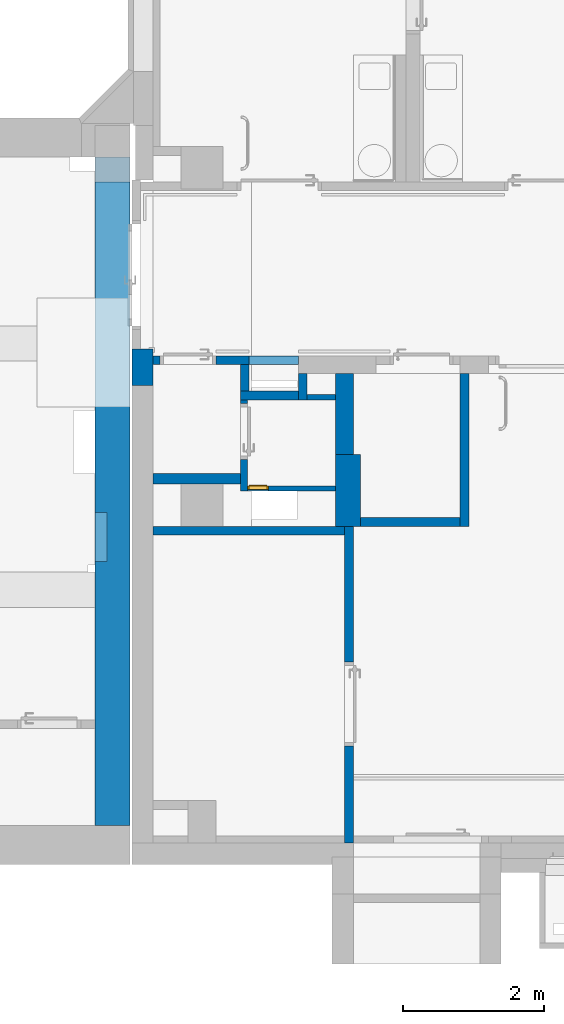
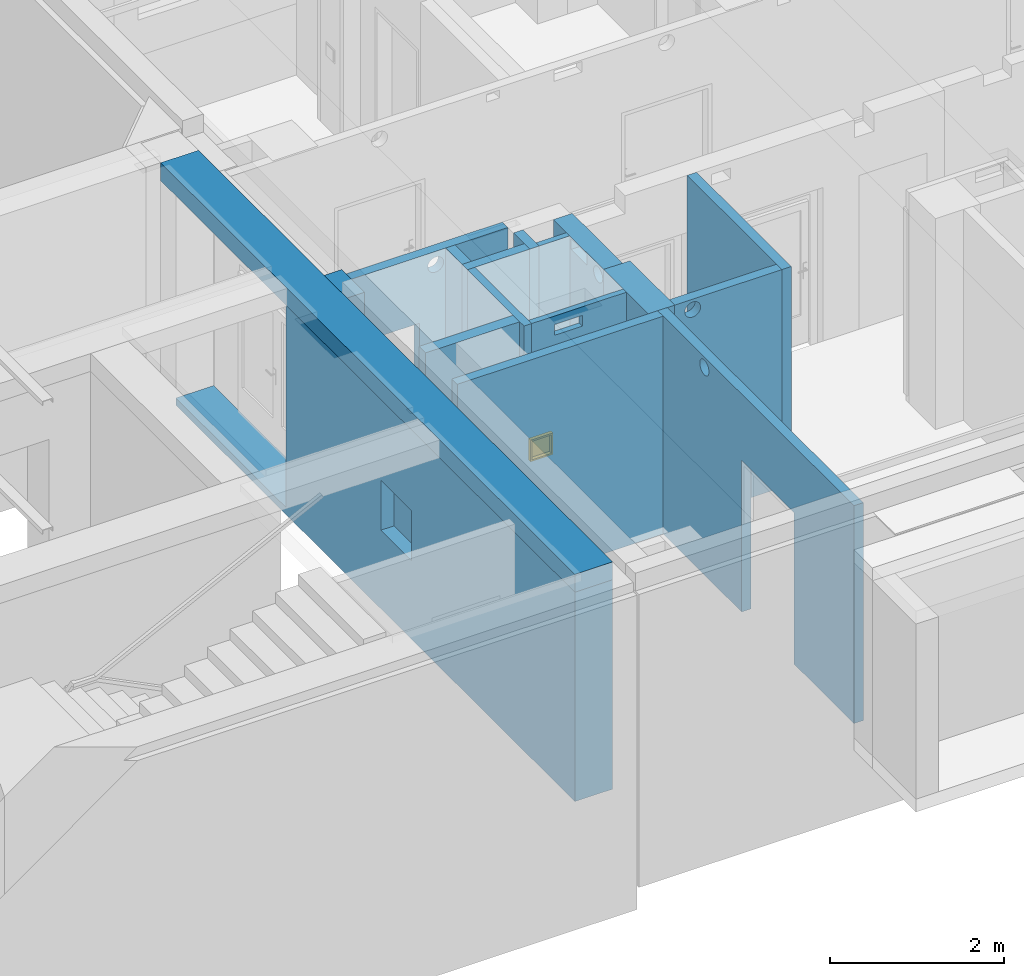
# One storey, part 10 of 84: 17 walls, 1 window, 13 openings.
"""IFC4 building model written with IfcOpenShell, lengths in metres."""

from ifc_helpers import new_model, entity, si_unit, converted_unit, derived_unit, frame, frame_2d, origin, origin_with_axes, place, context, subcontext, project, spatial, polyline, rectangle, outline, extrude, faceted_brep, source, transform, mapped, material, layer, layer_set, layer_usage, element, fill, save


model = new_model("IFC4")

# Units and contexts
model_context = context("Model", 3, precision=1e-05, world=origin())
body_context = subcontext(model_context, "Body", "Model", "MODEL_VIEW")
ifc_project = project(units=[si_unit("LENGTHUNIT", "METRE"), si_unit("AREAUNIT", "SQUARE_METRE"), si_unit("VOLUMEUNIT", "CUBIC_METRE"), si_unit("MASSUNIT", "GRAM", prefix="KILO"), converted_unit("PLANEANGLEUNIT", "DEGREE", entity("IfcPlaneAngleMeasure", 0.0174532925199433), si_unit("PLANEANGLEUNIT", "RADIAN"), dimensions=[0, 0, 0, 0, 0, 0, 0]), derived_unit("THERMALTRANSMITTANCEUNIT", [(si_unit("POWERUNIT", "WATT"), 1), (si_unit("THERMODYNAMICTEMPERATUREUNIT", "KELVIN"), -1), (si_unit("LENGTHUNIT", "METRE"), -2)]), derived_unit("VOLUMETRICFLOWRATEUNIT", [(si_unit("LENGTHUNIT", "METRE"), 3), (converted_unit("TIMEUNIT", "hour", entity("IfcTimeMeasure", 3600.0), si_unit("TIMEUNIT", "SECOND"), dimensions=[0, 0, 1, 0, 0, 0, 0]), -1), (si_unit("LENGTHUNIT", "METRE"), -1)])], contexts=[model_context])

# Site, building, storey
site_placement = place(None, origin())
site = spatial("IfcSite", under=ifc_project, at=site_placement, Name="3. ASŘ", CompositionType="ELEMENT")
building_placement = place(site_placement, origin())
building = spatial("IfcBuilding", under=site, at=building_placement, Name="Pavilon C", CompositionType="ELEMENT")
storey_placement = place(building_placement, frame((0.0, 0.0, -3.3)))
storey = spatial("IfcBuildingStorey", under=building, at=storey_placement, Name="Půdorys 1.PP", CompositionType="ELEMENT", Elevation=-3.3)

# Wall, openings
ifc_material_1 = material(Name="ZDIVO Z CDm")
ifc_layer_1 = layer(ifc_material_1, 0.5)
ifc_layer_set_1 = layer_set([ifc_layer_1])
ifc_layer_usage_1 = layer_usage(ifc_layer_set_1, "AXIS2", "POSITIVE", 0.0)
wall_1_placement = place(storey_placement, frame((-1.025, 0.850000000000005, -0.1), z_axis=(0.0, 0.0, 1.0), x_axis=(7.95186624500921e-16, 1.0, 0.0)))
wall_1 = element("IfcWall", 1, at=wall_1_placement, inside=storey, material=ifc_layer_usage_1, Name="ZDIVO Z CDm", context=body_context, shape_type="SweptSolid", body=[
    extrude(rectangle(XDim=9.15, YDim=0.5, at=frame_2d((4.575, 0.25), x_axis=(1.0, 0.0))), origin_with_axes(), (0.0, 0.0, 1.0), 2.93),
])
opening_1_placement = place(wall_1_placement, frame((9.15, 0.5, 0.1), z_axis=(0.0, -1.0, 0.0), x_axis=(0.0, 0.0, 1.0)))
element("IfcOpeningElement", 2, at=opening_1_placement, cuts=wall_1, Name="Dveřní otvor", ObjectType="Opening", context=body_context, shape_type="SweptSolid", body=[
    extrude(outline(polyline([(0.0, 2.525), (2.95, 2.525), (2.95, 0.0), (0.0, 0.0), (0.0, 2.525)])), origin_with_axes(), (0.0, 0.0, 1.0), 0.5),
])
opening_2_placement = place(wall_1_placement, frame((4.45, 0.499999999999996, 1.1), z_axis=(0.0, -1.0, 0.0), x_axis=(0.0, 0.0, 1.0)))
element("IfcOpeningElement", 3, at=opening_2_placement, cuts=wall_1, Name="Stěnová nika", ObjectType="Opening", context=body_context, shape_type="SweptSolid", body=[
    extrude(outline(polyline([(0.0, 0.7), (0.7, 0.7), (0.7, 0.0), (0.0, 0.0), (0.0, 0.7)])), origin_with_axes(), (0.0, 0.0, 1.0), 0.175),
])

# Walls
ifc_material_2 = material(Name="ZDIVO Z CDm")
ifc_layer_2 = layer(ifc_material_2, 0.125)
ifc_layer_set_2 = layer_set([ifc_layer_2])
ifc_layer_usage_2 = layer_usage(ifc_layer_set_2, "AXIS2", "POSITIVE", 0.0)
wall_2_placement = place(storey_placement, frame((2.025, 5.1, -0.1), z_axis=(0.0, 0.0, 1.0), x_axis=(-1.0, 0.0, 0.0)))
element("IfcWall", 4, at=wall_2_placement, inside=storey, material=ifc_layer_usage_2, Name="ZDIVO Z CDm", context=body_context, shape_type="SweptSolid", body=[
    extrude(rectangle(XDim=2.725, YDim=0.125, at=frame_2d((1.3625, 0.0625), x_axis=(1.0, 0.0))), origin_with_axes(), (0.0, 0.0, 1.0), 3.05),
])
ifc_material_3 = material(Name="ZDIVO Z CDm")
ifc_layer_3 = layer(ifc_material_3, 0.125)
ifc_layer_set_3 = layer_set([ifc_layer_3])
ifc_layer_usage_3 = layer_usage(ifc_layer_set_3, "AXIS2", "POSITIVE", 0.0)
wall_3_placement = place(storey_placement, frame((1.37, 7.025, -0.1), z_axis=(0.0, 0.0, 1.0), x_axis=(-1.0, 0.0, 0.0)))
element("IfcWall", 5, at=wall_3_placement, inside=storey, material=ifc_layer_usage_3, Name="ZDIVO Z CDm", context=body_context, shape_type="SweptSolid", body=[
    extrude(rectangle(XDim=0.825, YDim=0.125, at=frame_2d((0.4125, 0.0625), x_axis=(1.0, 0.0))), origin_with_axes(), (0.0, 0.0, 1.0), 3.05),
])
ifc_material_4 = material(Name="ZDIVO Z CDm")
ifc_layer_4 = layer(ifc_material_4, 0.125)
ifc_layer_set_4 = layer_set([ifc_layer_4])
ifc_layer_usage_4 = layer_usage(ifc_layer_set_4, "AXIS2", "POSITIVE", 0.0)
wall_4_placement = place(storey_placement, frame((0.670000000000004, 7.025, -0.1), z_axis=(0.0, 0.0, 1.0), x_axis=(0.0, 1.0, 0.0)))
element("IfcWall", 6, at=wall_4_placement, inside=storey, material=ifc_layer_usage_4, Name="ZDIVO Z CDm", context=body_context, shape_type="SweptSolid", body=[
    extrude(rectangle(XDim=0.375, YDim=0.125, at=frame_2d((0.1875, 0.0625), x_axis=(1.0, 0.0))), origin_with_axes(), (0.0, 0.0, 1.0), 3.05),
])
ifc_material_5 = material(Name="ZDIVO Z CDm")
ifc_layer_5 = layer(ifc_material_5, 0.3)
ifc_layer_set_5 = layer_set([ifc_layer_5])
ifc_layer_usage_5 = layer_usage(ifc_layer_set_5, "AXIS2", "POSITIVE", 0.0)
wall_5_placement = place(storey_placement, frame((-0.999999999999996, 7.625, -0.1), z_axis=(0.0, 0.0, 1.0), x_axis=(0.0, -1.0, 0.0)))
element("IfcWall", 7, at=wall_5_placement, inside=storey, material=ifc_layer_usage_5, Name="ZDIVO Z CDm", context=body_context, shape_type="SweptSolid", body=[
    extrude(rectangle(XDim=0.525, YDim=0.3, at=frame_2d((0.2625, 0.15), x_axis=(1.0, 0.0))), origin_with_axes(), (0.0, 0.0, 1.0), 3.05),
])
ifc_material_6 = material(Name="ZDIVO Z CDm")
ifc_layer_6 = layer(ifc_material_6, 0.125)
ifc_layer_set_6 = layer_set([ifc_layer_6])
ifc_layer_usage_6 = layer_usage(ifc_layer_set_6, "AXIS2", "POSITIVE", 0.0)
wall_6_placement = place(storey_placement, frame((1.37, 7.275, -0.1), z_axis=(0.0, 0.0, 1.0), x_axis=(0.0, -1.0, 0.0)))
element("IfcWall", 8, at=wall_6_placement, inside=storey, material=ifc_layer_usage_6, Name="ZDIVO Z CDm", context=body_context, shape_type="SweptSolid", body=[
    extrude(rectangle(XDim=0.374999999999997, YDim=0.125, at=frame_2d((0.187499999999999, 0.0625), x_axis=(1.0, 0.0))), origin_with_axes(), (0.0, 0.0, 1.0), 3.05),
])

# Wall, openings
ifc_material_7 = material(Name="ZDIVO Z CDm")
ifc_layer_7 = layer(ifc_material_7, 0.125)
ifc_layer_set_7 = layer_set([ifc_layer_7])
ifc_layer_usage_7 = layer_usage(ifc_layer_set_7, "AXIS2", "POSITIVE", 0.0)
wall_7_placement = place(storey_placement, frame((1.37, 7.525, -0.1), z_axis=(0.0, 0.0, 1.0), x_axis=(-1.0, 0.0, 0.0)))
wall_7 = element("IfcWall", 9, at=wall_7_placement, inside=storey, material=ifc_layer_usage_7, Name="ZDIVO Z CDm", context=body_context, shape_type="SweptSolid", body=[
    extrude(rectangle(XDim=2.07, YDim=0.125, at=frame_2d((1.035, 0.0625), x_axis=(1.0, 0.0))), origin_with_axes(), (0.0, 0.0, 1.0), 3.05),
])
opening_3_placement = place(wall_7_placement, frame((0.85074963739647, 0.0, 2.76), z_axis=(0.0, 1.0, 0.0), x_axis=(0.0, 0.0, 1.0)))
element("IfcOpeningElement", 10, at=opening_3_placement, cuts=wall_7, Name="VZT", ObjectType="Opening", context=body_context, shape_type="SweptSolid", body=[
    extrude(outline(polyline([(0.104999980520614, 0.21), (0.115975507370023, 0.20942479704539), (0.126830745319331, 0.207705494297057), (0.137446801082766, 0.204860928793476), (0.147707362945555, 0.200922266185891), (0.157500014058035, 0.195932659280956), (0.166717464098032, 0.189946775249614), (0.175258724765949, 0.1830301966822), (0.183030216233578, 0.175258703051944), (0.189946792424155, 0.166717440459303), (0.195932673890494, 0.157499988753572), (0.200922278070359, 0.1477073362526), (0.204860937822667, 0.137446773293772), (0.207705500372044, 0.126830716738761), (0.209424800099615, 0.115975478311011), (0.209999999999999, 0.104999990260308), (0.209424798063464, 0.0940245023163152), (0.207705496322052, 0.0831692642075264), (0.204860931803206, 0.0725532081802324), (0.20092227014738, 0.0622926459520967), (0.195932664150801, 0.0524999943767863), (0.18994678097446, 0.0432825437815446), (0.183030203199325, 0.0347412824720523), (0.175258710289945, 0.0269697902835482), (0.166717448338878, 0.0200532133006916), (0.157499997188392, 0.014067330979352), (0.147707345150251, 0.00907772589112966), (0.137446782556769, 0.00513906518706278), (0.126830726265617, 0.00229450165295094), (0.115975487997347, 0.000575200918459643), (0.105, 0.0), (0.0940245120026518, 0.000575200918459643), (0.0831692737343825, 0.00229450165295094), (0.0725532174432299, 0.00513906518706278), (0.0622926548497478, 0.00907772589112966), (0.0525000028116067, 0.014067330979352), (0.0432825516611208, 0.0200532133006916), (0.0347412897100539, 0.0269697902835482), (0.0269697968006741, 0.0347412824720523), (0.0200532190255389, 0.0432825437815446), (0.014067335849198, 0.0524999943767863), (0.00907772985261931, 0.0622926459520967), (0.00513906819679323, 0.0725532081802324), (0.00229450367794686, 0.0831692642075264), (0.000575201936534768, 0.0940245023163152), (0.0, 0.104999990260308), (0.000575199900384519, 0.115975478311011), (0.00229449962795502, 0.126830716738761), (0.00513906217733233, 0.137446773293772), (0.00907772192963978, 0.1477073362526), (0.0140673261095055, 0.157499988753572), (0.0200532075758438, 0.166717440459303), (0.0269697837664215, 0.175258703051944), (0.0347412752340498, 0.1830301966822), (0.0432825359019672, 0.189946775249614), (0.0524999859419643, 0.195932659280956), (0.0622926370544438, 0.200922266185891), (0.0725531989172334, 0.204860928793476), (0.0831692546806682, 0.207705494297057), (0.0940244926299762, 0.20942479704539), (0.104999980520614, 0.21)])), origin_with_axes(), (0.0, 0.0, 1.0), 0.125),
])
opening_4_placement = place(wall_7_placement, frame((1.97, 0.125, 0.0), z_axis=(0.0, -1.0, 0.0), x_axis=(0.0, 0.0, 1.0)))
element("IfcOpeningElement", 11, at=opening_4_placement, cuts=wall_7, Name="Dveřní otvor", ObjectType="Opening", context=body_context, shape_type="SweptSolid", body=[
    extrude(outline(polyline([(0.0, 0.8), (2.12, 0.8), (2.12, 0.0), (0.0, 0.0), (0.0, 0.8)])), origin_with_axes(), (0.0, 0.0, 1.0), 0.125),
])
opening_5_placement = place(wall_7_placement, frame((0.0, 0.0, 0.1), z_axis=(0.0, 1.0, 0.0), x_axis=(0.0, 0.0, 1.0)))
element("IfcOpeningElement", 12, at=opening_5_placement, cuts=wall_7, Name="Dveřní otvor", ObjectType="Opening", context=body_context, shape_type="SweptSolid", body=[
    extrude(outline(polyline([(0.0, 0.7), (2.2, 0.7), (2.2, 0.0), (0.0, 0.0), (0.0, 0.7)])), origin_with_axes(), (0.0, 0.0, 1.0), 0.125),
])

ifc_material_8 = material(Name="ZDIVO Z CDm")
ifc_layer_8 = layer(ifc_material_8, 0.125)
ifc_layer_set_8 = layer_set([ifc_layer_8])
ifc_layer_usage_8 = layer_usage(ifc_layer_set_8, "AXIS2", "POSITIVE", 0.0)
wall_8_placement = place(storey_placement, frame((2.025, 5.1, -0.1), z_axis=(0.0, 0.0, 1.0), x_axis=(-5.05274834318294e-17, -1.0, 0.0)))
wall_8 = element("IfcWall", 13, at=wall_8_placement, inside=storey, material=ifc_layer_usage_8, Name="ZDIVO Z CDm", context=body_context, shape_type="SweptSolid", body=[
    extrude(rectangle(XDim=4.5, YDim=0.125, at=frame_2d((2.25, 0.0625), x_axis=(1.0, 0.0))), origin_with_axes(), (0.0, 0.0, 1.0), 3.05),
])
opening_6_placement = place(wall_8_placement, frame((0.965358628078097, 4.87771420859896e-17, 2.8), z_axis=(0.0, 1.0, 0.0), x_axis=(0.0, 0.0, 1.0)))
element("IfcOpeningElement", 14, at=opening_6_placement, cuts=wall_8, Name="VZT", ObjectType="Opening", context=body_context, shape_type="SweptSolid", body=[
    extrude(outline(polyline([(0.104999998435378, 0.0), (0.0940245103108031, 0.00057520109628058), (0.0831692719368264, 0.00229450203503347), (0.0725532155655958, 0.0051390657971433), (0.062292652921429, 0.00907772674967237), (0.0525000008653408, 0.014067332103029), (0.0432825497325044, 0.0200532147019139), (0.0347412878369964, 0.0269697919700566), (0.0269697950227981, 0.0347412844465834), (0.0200532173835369, 0.0432825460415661), (0.0140673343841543, 0.0524999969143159), (0.0090777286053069, 0.062292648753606), (0.00513906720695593, 0.0725532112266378), (0.00229450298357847, 0.0831692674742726), (0.000575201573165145, 0.0940245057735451), (0.0, 0.104999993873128), (0.00057520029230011, 0.115975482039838), (0.00229450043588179, 0.126830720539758), (0.00513906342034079, 0.137446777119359), (0.00907772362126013, 0.147707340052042), (0.0140673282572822, 0.15749999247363), (0.0200532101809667, 0.166717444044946), (0.0269697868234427, 0.17525870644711), (0.0347412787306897, 0.183030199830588), (0.043282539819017, 0.189946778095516), (0.0524999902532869, 0.195932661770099), (0.0622926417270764, 0.200922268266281), (0.0725532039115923, 0.204860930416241), (0.0831692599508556, 0.20770549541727), (0.0940244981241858, 0.209424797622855), (0.104999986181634, 0.21), (0.115975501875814, 0.209424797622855), (0.126830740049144, 0.20770549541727), (0.137446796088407, 0.204860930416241), (0.147707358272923, 0.200922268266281), (0.157500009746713, 0.195932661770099), (0.166717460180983, 0.189946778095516), (0.17525872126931, 0.183030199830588), (0.183030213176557, 0.17525870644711), (0.189946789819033, 0.166717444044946), (0.195932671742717, 0.15749999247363), (0.200922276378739, 0.147707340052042), (0.204860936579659, 0.137446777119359), (0.207705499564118, 0.126830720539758), (0.2094247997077, 0.115975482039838), (0.21, 0.104999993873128), (0.209424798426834, 0.0940245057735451), (0.207705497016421, 0.0831692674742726), (0.204860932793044, 0.0725532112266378), (0.200922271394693, 0.062292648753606), (0.195932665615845, 0.0524999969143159), (0.189946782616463, 0.0432825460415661), (0.183030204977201, 0.0347412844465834), (0.175258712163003, 0.0269697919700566), (0.166717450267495, 0.0200532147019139), (0.157499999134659, 0.014067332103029), (0.147707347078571, 0.00907772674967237), (0.137446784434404, 0.0051390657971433), (0.126830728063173, 0.00229450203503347), (0.115975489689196, 0.00057520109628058), (0.104999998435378, 0.0)])), origin_with_axes(), (0.0, 0.0, 1.0), 0.125),
])
opening_7_placement = place(wall_8_placement, frame((1.925, -1.30108269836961e-16, 0.0), z_axis=(0.0, 1.0, 0.0), x_axis=(0.0, 0.0, 1.0)))
element("IfcOpeningElement", 15, at=opening_7_placement, cuts=wall_8, Name="Dveřní otvor", ObjectType="Opening", context=body_context, shape_type="SweptSolid", body=[
    extrude(outline(polyline([(0.0, 1.2), (2.12, 1.2), (2.12, 0.0), (0.0, 0.0), (0.0, 1.2)])), origin_with_axes(), (0.0, 0.0, 1.0), 0.125),
])

# Wall
ifc_material_9 = material(Name="ZELEZOBETONOVÁ KCE")
ifc_layer_9 = layer(ifc_material_9, 0.5)
ifc_layer_set_9 = layer_set([ifc_layer_9])
ifc_layer_usage_9 = layer_usage(ifc_layer_set_9, "AXIS2", "POSITIVE", 0.0)
wall_9_placement = place(storey_placement, frame((-1.52499999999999, 10.35, 2.83), z_axis=(0.0, 0.0, 1.0), x_axis=(-7.65890275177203e-16, -1.0, 0.0)))
element("IfcWall", 16, at=wall_9_placement, inside=storey, material=ifc_layer_usage_9, context=body_context, shape_type="SweptSolid", body=[
    extrude(rectangle(XDim=9.5, YDim=0.5, at=frame_2d((4.75, 0.25), x_axis=(1.0, 0.0))), origin_with_axes(), (0.0, 0.0, 1.0), 0.25),
])

# Wall, opening
ifc_material_10 = material(Name="SDK - 1 KCE + DVOJITÉ OPLÁŠTĚNÍ")
ifc_layer_10 = layer(ifc_material_10, 0.1)
ifc_layer_set_10 = layer_set([ifc_layer_10])
ifc_layer_usage_10 = layer_usage(ifc_layer_set_10, "AXIS2", "POSITIVE", 0.0)
wall_10_placement = place(storey_placement, frame((0.545000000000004, 6.9, -0.1), z_axis=(0.0, 0.0, 1.0), x_axis=(0.0, -1.0, 0.0)))
wall_10 = element("IfcWall", 17, at=wall_10_placement, inside=storey, material=ifc_layer_usage_10, Name="SDK - 1 KCE + DVOJITÉ OPLÁŠTĚNÍ", context=body_context, shape_type="SweptSolid", body=[
    extrude(rectangle(XDim=1.3, YDim=0.1, at=frame_2d((0.65, 0.05), x_axis=(1.0, 0.0))), origin_with_axes(), (0.0, 0.0, 1.0), 3.05),
])
opening_8_placement = place(wall_10_placement, frame((0.05, 0.0, 0.0), z_axis=(0.0, 1.0, 0.0), x_axis=(0.0, 0.0, 1.0)))
element("IfcOpeningElement", 18, at=opening_8_placement, cuts=wall_10, Name="Dveřní otvor", ObjectType="Opening", context=body_context, shape_type="SweptSolid", body=[
    extrude(outline(polyline([(0.0, 0.8), (2.12, 0.8), (2.12, 0.0), (0.0, 0.0), (0.0, 0.8)])), origin_with_axes(), (0.0, 0.0, 1.0), 0.1),
])

# Wall
ifc_material_11 = material(Name="SDK - 2 KCE + DVOJITÉ OPLÁŠTĚNÍ")
ifc_layer_11 = layer(ifc_material_11, 0.35)
ifc_layer_set_11 = layer_set([ifc_layer_11])
ifc_layer_usage_11 = layer_usage(ifc_layer_set_11, "AXIS2", "POSITIVE", 0.0)
wall_11_placement = place(storey_placement, frame((1.9, 6.125, -0.1), z_axis=(0.0, 0.0, 1.0), x_axis=(4.43655952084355e-16, -1.0, 0.0)))
element("IfcWall", 19, at=wall_11_placement, inside=storey, material=ifc_layer_usage_11, Name="SDK - 2 KCE + DVOJITÉ OPLÁŠTĚNÍ", context=body_context, shape_type="SweptSolid", body=[
    extrude(rectangle(XDim=1.025, YDim=0.35, at=frame_2d((0.5125, 0.175), x_axis=(1.0, 0.0))), origin_with_axes(), (0.0, 0.0, 1.0), 3.05),
])

# Wall, openings, window
ifc_material_12 = material(Name="SDK ŠACHTOVÁ STĚNA/SDK OPL. S PO")
ifc_layer_12 = layer(ifc_material_12, 0.0750000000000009)
ifc_layer_set_12 = layer_set([ifc_layer_12])
ifc_layer_usage_12 = layer_usage(ifc_layer_set_12, "AXIS2", "POSITIVE", 0.0)
wall_12_placement = place(storey_placement, frame((0.645000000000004, 5.6, 0.0)))
wall_12 = element("IfcWall", 20, at=wall_12_placement, inside=storey, material=ifc_layer_usage_12, Name="SDK ŠACHTOVÁ STĚNA/SDK OPL. S PO", context=body_context, shape_type="SweptSolid", body=[
    extrude(rectangle(XDim=1.255, YDim=0.0750000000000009, at=frame_2d((0.6275, 0.0375000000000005), x_axis=(1.0, 0.0))), origin_with_axes(), (0.0, 0.0, 1.0), 2.95),
])
opening_9_placement = place(wall_12_placement, frame((0.3, 0.0750000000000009, 1.0), z_axis=(0.0, -1.0, 0.0), x_axis=(0.0, 0.0, 1.0)))
opening_9 = element("IfcOpeningElement", 21, at=opening_9_placement, cuts=wall_12, Name="Okenní otvor", ObjectType="Opening", context=body_context, shape_type="SweptSolid", body=[
    extrude(outline(polyline([(0.0, 0.3), (0.3, 0.3), (0.3, 0.0), (0.0, 0.0), (0.0, 0.3)])), origin_with_axes(), (0.0, 0.0, 1.0), 0.0750000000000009),
])
opening_10_placement = place(wall_12_placement, frame((0.3, 0.0, 2.68), z_axis=(0.0, 1.0, 0.0), x_axis=(0.0, 0.0, 1.0)))
element("IfcOpeningElement", 22, at=opening_10_placement, cuts=wall_12, Name="ZTI", ObjectType="Opening", context=body_context, shape_type="SweptSolid", body=[
    extrude(outline(polyline([(0.0, 0.37), (0.15, 0.37), (0.15, 0.0), (0.0, 0.0), (0.0, 0.37)])), origin_with_axes(), (0.0, 0.0, 1.0), 0.0750000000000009),
])
shared_shape = source(origin_with_axes(), body_context, "Body", "Brep", [
    faceted_brep([(0.0, 0.06, 0.3), (0.0, 0.06, 4.91096680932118e-19), (0.02, 0.06, 4.91096680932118e-19), (0.02, 0.06, 0.3), (0.0, 0.01, 6.61433067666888e-18), (0.0, 0.01, 0.3), (0.02, 0.01, 0.3), (0.02, 0.01, 6.61433067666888e-18)], [[[0, 1, 2, 3]], [[4, 5, 6, 7]], [[1, 0, 5, 4]], [[2, 1, 4, 7]], [[3, 2, 7, 6]], [[0, 3, 6, 5]]], orient=[[False], [False], [False], [False], [False], [False]]),
    faceted_brep([(0.28, 0.06, 0.3), (0.28, 0.06, 4.91096680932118e-19), (0.3, 0.06, 4.91096680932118e-19), (0.3, 0.06, 0.3), (0.28, 0.01, 6.61433067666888e-18), (0.28, 0.01, 0.3), (0.3, 0.01, 0.3), (0.3, 0.01, 6.61433067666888e-18)], [[[0, 1, 2, 3]], [[4, 5, 6, 7]], [[1, 0, 5, 4]], [[2, 1, 4, 7]], [[3, 2, 7, 6]], [[0, 3, 6, 5]]], orient=[[False], [False], [False], [False], [False], [False]]),
    faceted_brep([(0.02, 0.06, 0.02), (0.02, 0.06, 4.91096680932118e-19), (0.28, 0.06, 4.91096680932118e-19), (0.28, 0.06, 0.02), (0.02, 0.01, 6.61433067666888e-18), (0.02, 0.01, 0.02), (0.28, 0.01, 0.02), (0.28, 0.01, 6.61433067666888e-18)], [[[0, 1, 2, 3]], [[4, 5, 6, 7]], [[1, 0, 5, 4]], [[2, 1, 4, 7]], [[3, 2, 7, 6]], [[0, 3, 6, 5]]], orient=[[False], [False], [False], [False], [False], [False]]),
    faceted_brep([(0.02, 0.06, 0.3), (0.02, 0.06, 0.28), (0.28, 0.06, 0.28), (0.28, 0.06, 0.3), (0.02, 0.01, 0.28), (0.02, 0.01, 0.3), (0.28, 0.01, 0.3), (0.28, 0.01, 0.28)], [[[0, 1, 2, 3]], [[4, 5, 6, 7]], [[1, 0, 5, 4]], [[2, 1, 4, 7]], [[3, 2, 7, 6]], [[0, 3, 6, 5]]], orient=[[False], [False], [False], [False], [False], [False]]),
    faceted_brep([(0.02, 0.01, 0.28), (0.02, 0.01, 0.02), (0.28, 0.01, 0.02), (0.28, 0.01, 0.28), (0.02, 0.0, 0.02), (0.02, 3.19744231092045e-17, 0.28), (0.28, 3.19744231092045e-17, 0.28), (0.28, 0.0, 0.02)], [[[0, 1, 2, 3]], [[4, 5, 6, 7]], [[1, 0, 5, 4]], [[2, 1, 4, 7]], [[3, 2, 7, 6]], [[0, 3, 6, 5]]], orient=[[False], [False], [False], [False], [False], [False]]),
])
window_placement = place(opening_9_placement, frame((0.0, 0.3, -0.01), z_axis=(1.0, 0.0, 0.0), x_axis=(0.0, -1.0, 1.22464679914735e-16)))
window = element("IfcWindow", 23, at=window_placement, inside=storey, OverallHeight=0.3, OverallWidth=0.3, PartitioningType="USERDEFINED", PredefinedType="WINDOW", context=body_context, shape_type="MappedRepresentation", body=[
    mapped(shared_shape, transform((0.0, 0.0, 0.0), x_axis=(1.0, 0.0, 0.0), y_axis=(0.0, -1.0, 0.0), z_axis=(0.0, 0.0, 1.0), scale=1.0)),
])
fill(opening_9, window)

# Walls
ifc_material_13 = material(Name="SDK OPL. PROFESÍ/SDK OPL. BEZ PO")
ifc_layer_13 = layer(ifc_material_13, 0.075)
ifc_layer_set_13 = layer_set([ifc_layer_13])
ifc_layer_usage_13 = layer_usage(ifc_layer_set_13, "AXIS2", "POSITIVE", 0.0)
wall_13_placement = place(storey_placement, frame((1.495, 6.9, -0.1)))
element("IfcWall", 24, at=wall_13_placement, inside=storey, material=ifc_layer_usage_13, Name="SDK OPL. PROFESÍ/SDK OPL. BEZ PO", context=body_context, shape_type="SweptSolid", body=[
    extrude(rectangle(XDim=0.405, YDim=0.075, at=frame_2d((0.2025, 0.0375), x_axis=(1.0, 0.0))), origin_with_axes(), (0.0, 0.0, 1.0), 3.05),
])
ifc_material_14 = material(Name="SDK INSTAL. PŘDSTĚNA VYSOKÁ")
ifc_layer_14 = layer(ifc_material_14, 0.15)
ifc_layer_set_14 = layer_set([ifc_layer_14])
ifc_layer_usage_14 = layer_usage(ifc_layer_set_14, "AXIS2", "POSITIVE", 0.0)
wall_14_placement = place(storey_placement, frame((0.545000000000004, 5.85, -0.1), z_axis=(0.0, 0.0, 1.0), x_axis=(-1.0, 0.0, 0.0)))
element("IfcWall", 25, at=wall_14_placement, inside=storey, material=ifc_layer_usage_14, Name="SDK INSTAL. PŘDSTĚNA VYSOKÁ", context=body_context, shape_type="SweptSolid", body=[
    extrude(rectangle(XDim=1.245, YDim=0.15, at=frame_2d((0.6225, 0.075), x_axis=(1.0, 0.0))), origin_with_axes(), (0.0, 0.0, 1.0), 3.05),
])

# Wall, opening
ifc_material_15 = material(Name="SDK - 1 KCE + DVOJITÉ OPLÁŠTĚNÍ")
ifc_layer_15 = layer(ifc_material_15, 0.125)
ifc_layer_set_15 = layer_set([ifc_layer_15])
ifc_layer_usage_15 = layer_usage(ifc_layer_set_15, "AXIS2", "POSITIVE", 0.0)
wall_15_placement = place(storey_placement, frame((2.25, 5.1, -0.1)))
wall_15 = element("IfcWall", 26, at=wall_15_placement, inside=storey, material=ifc_layer_usage_15, Name="SDK - 1 KCE + DVOJITÉ OPLÁŠTĚNÍ", context=body_context, shape_type="SweptSolid", body=[
    extrude(rectangle(XDim=1.42, YDim=0.125, at=frame_2d((0.709999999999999, 0.0625), x_axis=(1.0, 0.0))), origin_with_axes(), (0.0, 0.0, 1.0), 3.05),
])
opening_11_placement = place(wall_15_placement, frame((0.132920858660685, 0.0, 2.8), z_axis=(0.0, 1.0, 0.0), x_axis=(0.0, 0.0, 1.0)))
element("IfcOpeningElement", 27, at=opening_11_placement, cuts=wall_15, Name="VZT", ObjectType="Opening", context=body_context, shape_type="SweptSolid", body=[
    extrude(outline(polyline([(0.105, 0.0), (0.0940245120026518, 0.000575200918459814), (0.0831692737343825, 0.00229450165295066), (0.0725532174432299, 0.0051390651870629), (0.0622926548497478, 0.00907772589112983), (0.0525000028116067, 0.0140673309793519), (0.0432825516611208, 0.0200532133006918), (0.0347412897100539, 0.0269697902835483), (0.0269697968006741, 0.0347412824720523), (0.0200532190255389, 0.0432825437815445), (0.014067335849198, 0.0524999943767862), (0.00907772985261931, 0.0622926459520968), (0.00513906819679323, 0.0725532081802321), (0.00229450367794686, 0.0831692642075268), (0.000575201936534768, 0.0940245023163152), (0.0, 0.104999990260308), (0.000575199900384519, 0.115975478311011), (0.00229449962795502, 0.126830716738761), (0.00513906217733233, 0.137446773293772), (0.00907772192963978, 0.147707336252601), (0.0140673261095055, 0.157499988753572), (0.0200532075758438, 0.166717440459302), (0.0269697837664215, 0.175258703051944), (0.0347412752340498, 0.1830301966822), (0.0432825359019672, 0.189946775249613), (0.0524999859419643, 0.195932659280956), (0.0622926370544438, 0.200922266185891), (0.0725531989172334, 0.204860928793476), (0.0831692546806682, 0.207705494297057), (0.0940244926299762, 0.20942479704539), (0.104999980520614, 0.21), (0.115975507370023, 0.20942479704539), (0.126830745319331, 0.207705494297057), (0.137446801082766, 0.204860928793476), (0.147707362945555, 0.200922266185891), (0.157500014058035, 0.195932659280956), (0.166717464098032, 0.189946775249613), (0.175258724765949, 0.1830301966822), (0.183030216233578, 0.175258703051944), (0.189946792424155, 0.166717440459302), (0.195932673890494, 0.157499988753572), (0.200922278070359, 0.147707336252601), (0.204860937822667, 0.137446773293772), (0.207705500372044, 0.126830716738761), (0.209424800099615, 0.115975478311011), (0.209999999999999, 0.104999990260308), (0.209424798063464, 0.0940245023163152), (0.207705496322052, 0.0831692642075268), (0.204860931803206, 0.0725532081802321), (0.20092227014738, 0.0622926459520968), (0.195932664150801, 0.0524999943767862), (0.18994678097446, 0.0432825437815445), (0.183030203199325, 0.0347412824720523), (0.175258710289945, 0.0269697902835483), (0.166717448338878, 0.0200532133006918), (0.157499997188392, 0.0140673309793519), (0.147707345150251, 0.00907772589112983), (0.137446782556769, 0.0051390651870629), (0.126830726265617, 0.00229450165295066), (0.115975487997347, 0.000575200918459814), (0.105, 0.0)])), origin_with_axes(), (0.0, 0.0, 1.0), 0.125),
])

# Wall
ifc_material_16 = material(Name="SDK - 1 KCE + DVOJITÉ OPLÁŠTĚNÍ")
ifc_layer_16 = layer(ifc_material_16, 0.125)
ifc_layer_set_16 = layer_set([ifc_layer_16])
ifc_layer_usage_16 = layer_usage(ifc_layer_set_16, "AXIS2", "POSITIVE", 0.0)
wall_16_placement = place(storey_placement, frame((3.795, 5.1, -0.1), z_axis=(0.0, 0.0, 1.0), x_axis=(2.0907924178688e-16, 1.0, 0.0)))
element("IfcWall", 28, at=wall_16_placement, inside=storey, material=ifc_layer_usage_16, Name="SDK - 1 KCE + DVOJITÉ OPLÁŠTĚNÍ", context=body_context, shape_type="SweptSolid", body=[
    extrude(rectangle(XDim=2.175, YDim=0.125, at=frame_2d((1.0875, 0.0625), x_axis=(1.0, 0.0))), origin_with_axes(), (0.0, 0.0, 1.0), 3.05),
])

# Wall, openings
ifc_material_17 = material(Name="SDK - 2 KCE + DVOJITÉ OPLÁŠTĚNÍ")
ifc_layer_17 = layer(ifc_material_17, 0.25)
ifc_layer_set_17 = layer_set([ifc_layer_17])
ifc_layer_usage_17 = layer_usage(ifc_layer_set_17, "AXIS2", "POSITIVE", 0.0)
wall_17_placement = place(storey_placement, frame((1.9, 7.275, -0.1), z_axis=(0.0, 0.0, 1.0), x_axis=(0.0, -1.0, 0.0)))
wall_17 = element("IfcWall", 29, at=wall_17_placement, inside=storey, material=ifc_layer_usage_17, Name="SDK - 2 KCE + DVOJITÉ OPLÁŠTĚNÍ", context=body_context, shape_type="SweptSolid", body=[
    extrude(rectangle(XDim=1.15, YDim=0.25, at=frame_2d((0.575000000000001, 0.125), x_axis=(1.0, 0.0))), origin_with_axes(), (0.0, 0.0, 1.0), 3.05),
])
opening_12_placement = place(wall_17_placement, frame((1.13138944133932, 0.25, 2.8), z_axis=(0.0, -1.0, 0.0), x_axis=(0.0, 0.0, 1.0)))
element("IfcOpeningElement", 30, at=opening_12_placement, cuts=wall_17, Name="VZT", ObjectType="Opening", context=body_context, shape_type="SweptSolid", body=[
    extrude(outline(polyline([(0.104999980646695, 0.0), (0.0940244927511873, 0.000575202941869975), (0.0831692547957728, 0.00229450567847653), (0.0725531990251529, 0.00513907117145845), (0.0622926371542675, 0.00907773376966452), (0.0524999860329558, 0.0140673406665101), (0.0432825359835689, 0.0200532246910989), (0.034741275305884, 0.0269698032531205), (0.0269697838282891, 0.0347412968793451), (0.0200532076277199, 0.0432825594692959), (0.0140673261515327, 0.0525000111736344), (0.00907772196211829, 0.0622926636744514), (0.00513906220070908, 0.0725532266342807), (0.00229449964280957, 0.0831692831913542), (0.000575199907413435, 0.0940245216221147), (0.0, 0.105000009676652), (0.000575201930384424, 0.115975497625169), (0.0022945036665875, 0.126830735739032), (0.0051390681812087, 0.137446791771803), (0.00907772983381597, 0.147707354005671), (0.0140673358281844, 0.157500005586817), (0.0200532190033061, 0.166717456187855), (0.0269697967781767, 0.175258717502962), (0.0347412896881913, 0.183030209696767), (0.0432825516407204, 0.189946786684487), (0.0525000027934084, 0.195932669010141), (0.0622926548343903, 0.200922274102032), (0.0725532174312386, 0.204860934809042), (0.0831692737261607, 0.207705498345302), (0.0940245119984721, 0.209424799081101), (0.105, 0.21), (0.115975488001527, 0.209424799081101), (0.126830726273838, 0.207705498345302), (0.13744678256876, 0.204860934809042), (0.147707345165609, 0.200922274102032), (0.157499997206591, 0.195932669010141), (0.166717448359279, 0.189946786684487), (0.175258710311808, 0.183030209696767), (0.183030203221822, 0.175258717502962), (0.189946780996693, 0.166717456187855), (0.195932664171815, 0.157500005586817), (0.200922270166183, 0.147707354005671), (0.20486093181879, 0.137446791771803), (0.207705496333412, 0.126830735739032), (0.209424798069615, 0.115975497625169), (0.209999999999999, 0.105000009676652), (0.209424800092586, 0.0940245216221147), (0.20770550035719, 0.0831692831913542), (0.20486093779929, 0.0725532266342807), (0.200922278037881, 0.0622926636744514), (0.195932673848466, 0.0525000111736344), (0.189946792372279, 0.0432825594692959), (0.18303021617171, 0.0347412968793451), (0.175258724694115, 0.0269698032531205), (0.16671746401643, 0.0200532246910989), (0.157500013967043, 0.0140673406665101), (0.147707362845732, 0.00907773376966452), (0.137446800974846, 0.00513907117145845), (0.126830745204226, 0.00229450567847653), (0.115975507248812, 0.000575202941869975), (0.104999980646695, 0.0)])), origin_with_axes(), (0.0, 0.0, 1.0), 0.25),
])
opening_13_placement = place(wall_17_placement, frame((0.774999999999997, 0.25, 2.88), z_axis=(0.0, -1.0, 0.0), x_axis=(0.0, 0.0, 1.0)))
element("IfcOpeningElement", 31, at=opening_13_placement, cuts=wall_17, Name="ZTI", ObjectType="Opening", context=body_context, shape_type="SweptSolid", body=[
    extrude(outline(polyline([(0.0, 0.37), (0.15, 0.37), (0.15, 0.0), (0.0, 0.0), (0.0, 0.37)])), origin_with_axes(), (0.0, 0.0, 1.0), 0.25),
])

save(model, "model.ifc")
